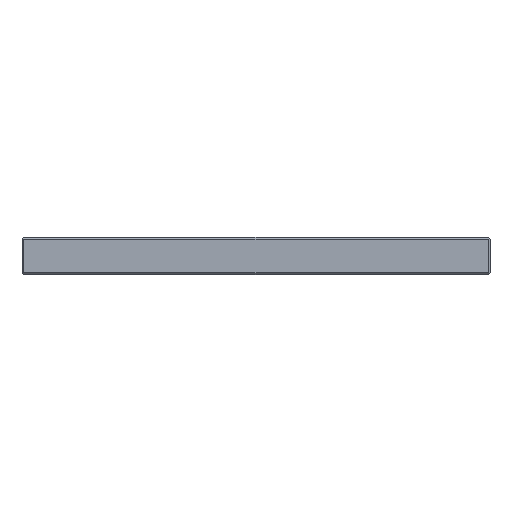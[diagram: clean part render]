
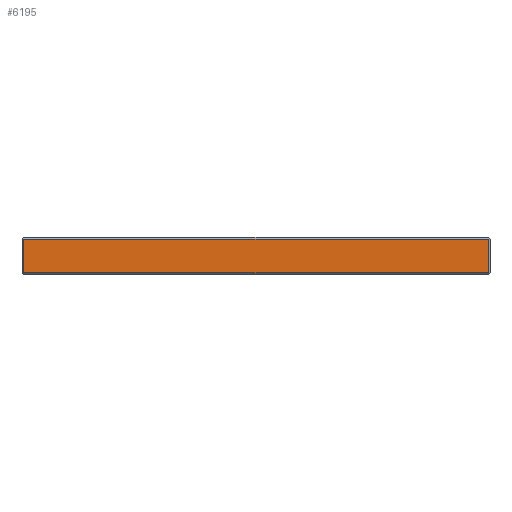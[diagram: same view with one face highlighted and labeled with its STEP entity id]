
A CAD part, front view. The second image highlights one B-rep face of the part: STEP entity #6195.
In plain terms, the highlighted planar face has unit normal (0, -1, 0).
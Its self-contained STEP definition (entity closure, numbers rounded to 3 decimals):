
#3561=FACE_OUTER_BOUND('',#20964,.T.);
#6195=ADVANCED_FACE('',(#3561),#7822,.T.);
#7822=PLANE('',#56371);
#11571=LINE('',#88508,#15885);
#11572=LINE('',#88511,#15886);
#11573=LINE('',#88513,#15887);
#11574=LINE('',#88515,#15888);
#15885=VECTOR('',#69443,1.);
#15886=VECTOR('',#69444,1.);
#15887=VECTOR('',#69445,1.);
#15888=VECTOR('',#69446,1.);
#20964=EDGE_LOOP('',(#33539,#33540,#33541,#33542));
#33539=ORIENTED_EDGE('',*,*,#47207,.T.);
#33540=ORIENTED_EDGE('',*,*,#47208,.T.);
#33541=ORIENTED_EDGE('',*,*,#47209,.T.);
#33542=ORIENTED_EDGE('',*,*,#47210,.T.);
#40313=VERTEX_POINT('',#88509);
#40314=VERTEX_POINT('',#88510);
#40315=VERTEX_POINT('',#88512);
#40316=VERTEX_POINT('',#88514);
#47207=EDGE_CURVE('',#40313,#40314,#11571,.T.);
#47208=EDGE_CURVE('',#40314,#40315,#11572,.T.);
#47209=EDGE_CURVE('',#40315,#40316,#11573,.T.);
#47210=EDGE_CURVE('',#40316,#40313,#11574,.T.);
#56371=AXIS2_PLACEMENT_3D('',#88516,#69447,#69448);
#69443=DIRECTION('',(-1.,0.,0.));
#69444=DIRECTION('',(0.,0.,-1.));
#69445=DIRECTION('',(1.,0.,0.));
#69446=DIRECTION('',(0.,0.,1.));
#69447=DIRECTION('',(0.,-1.,0.));
#69448=DIRECTION('',(0.,0.,-1.));
#88508=CARTESIAN_POINT('',(50.,0.,7.575));
#88509=CARTESIAN_POINT('',(99.6,0.,7.575));
#88510=CARTESIAN_POINT('',(0.4,0.,7.575));
#88511=CARTESIAN_POINT('',(0.4,0.,0.));
#88512=CARTESIAN_POINT('',(0.4,0.,0.425));
#88513=CARTESIAN_POINT('',(50.,0.,0.425));
#88514=CARTESIAN_POINT('',(99.6,0.,0.425));
#88515=CARTESIAN_POINT('',(99.6,0.,0.));
#88516=CARTESIAN_POINT('',(50.,0.,0.));
